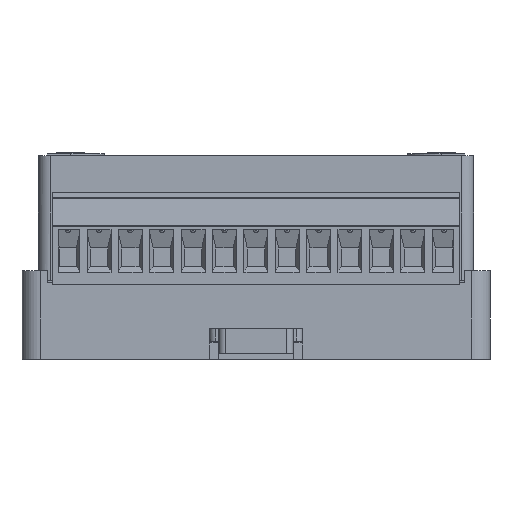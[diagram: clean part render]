
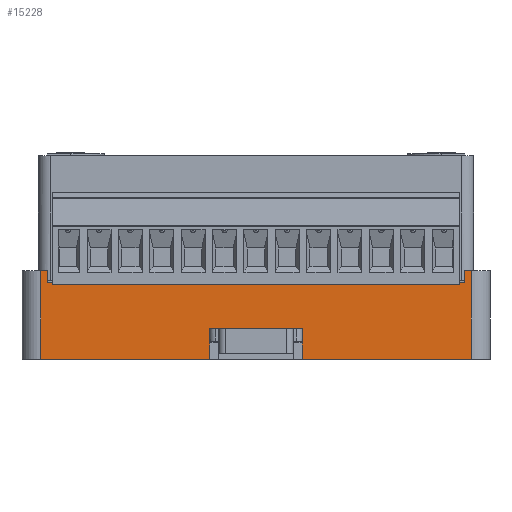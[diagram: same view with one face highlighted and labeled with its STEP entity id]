
A CAD part, front view. The second image highlights one B-rep face of the part: STEP entity #15228.
In plain terms, the highlighted planar face has unit normal (0, -1, 0).
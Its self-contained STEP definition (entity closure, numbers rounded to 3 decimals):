
#15228=ADVANCED_FACE('',(#60626),#60628,.F.);
#60626=FACE_BOUND('',#60627,.T.);
#60627=EDGE_LOOP('',(#93835,#93836,#93837,#93838,#93839,#93840,#93841,#93842,#93843,
#93844,#93845,#93846,#93847,#93848,#93849,#93850));
#60628=PLANE('',#60629);
#60629=AXIS2_PLACEMENT_3D('',#60630,#60631,#60632);
#60630=CARTESIAN_POINT('',(-37.9,-51.95,14.4));
#60631=DIRECTION('',(0.,1.,0.));
#60632=DIRECTION('',(0.,0.,1.));
#93835=ORIENTED_EDGE('',*,*,#125533,.F.);
#93836=ORIENTED_EDGE('',*,*,#125534,.F.);
#93837=ORIENTED_EDGE('',*,*,#125535,.T.);
#93838=ORIENTED_EDGE('',*,*,#125536,.T.);
#93839=ORIENTED_EDGE('',*,*,#125537,.T.);
#93840=ORIENTED_EDGE('',*,*,#125167,.F.);
#93841=ORIENTED_EDGE('',*,*,#125199,.T.);
#93842=ORIENTED_EDGE('',*,*,#125197,.F.);
#93843=ORIENTED_EDGE('',*,*,#125196,.T.);
#93844=ORIENTED_EDGE('',*,*,#125183,.F.);
#93845=ORIENTED_EDGE('',*,*,#125538,.T.);
#93846=ORIENTED_EDGE('',*,*,#125539,.T.);
#93847=ORIENTED_EDGE('',*,*,#125540,.F.);
#93848=ORIENTED_EDGE('',*,*,#125541,.F.);
#93849=ORIENTED_EDGE('',*,*,#125542,.F.);
#93850=ORIENTED_EDGE('',*,*,#125203,.F.);
#125167=EDGE_CURVE('',#142083,#142085,#142086,.T.);
#125183=EDGE_CURVE('',#142112,#142104,#142114,.T.);
#125196=EDGE_CURVE('',#142132,#142104,#142134,.T.);
#125197=EDGE_CURVE('',#142132,#142135,#142136,.T.);
#125199=EDGE_CURVE('',#142083,#142135,#142138,.T.);
#125203=EDGE_CURVE('',#142142,#142144,#142145,.T.);
#125533=EDGE_CURVE('',#142702,#142142,#142703,.T.);
#125534=EDGE_CURVE('',#142704,#142702,#142705,.T.);
#125535=EDGE_CURVE('',#142704,#142706,#142707,.T.);
#125536=EDGE_CURVE('',#142706,#142708,#142709,.T.);
#125537=EDGE_CURVE('',#142708,#142085,#142710,.T.);
#125538=EDGE_CURVE('',#142112,#142711,#142712,.T.);
#125539=EDGE_CURVE('',#142711,#142713,#142714,.T.);
#125540=EDGE_CURVE('',#142715,#142713,#142716,.T.);
#125541=EDGE_CURVE('',#142717,#142715,#142718,.T.);
#125542=EDGE_CURVE('',#142144,#142717,#142719,.T.);
#142083=VERTEX_POINT('',#187315);
#142085=VERTEX_POINT('',#187319);
#142086=LINE('',#187320,#187321);
#142104=VERTEX_POINT('',#187362);
#142112=VERTEX_POINT('',#187379);
#142114=LINE('',#187384,#187385);
#142132=VERTEX_POINT('',#187426);
#142134=LINE('',#187430,#187431);
#142135=VERTEX_POINT('',#187433);
#142136=LINE('',#187434,#187435);
#142138=LINE('',#187440,#187441);
#142142=VERTEX_POINT('',#187450);
#142144=VERTEX_POINT('',#187454);
#142145=LINE('',#187455,#187456);
#142702=VERTEX_POINT('',#189654);
#142703=LINE('',#189655,#189656);
#142704=VERTEX_POINT('',#189658);
#142705=LINE('',#189659,#189660);
#142706=VERTEX_POINT('',#189662);
#142707=LINE('',#189663,#189664);
#142708=VERTEX_POINT('',#189666);
#142709=LINE('',#189667,#189668);
#142710=LINE('',#189670,#189671);
#142711=VERTEX_POINT('',#189673);
#142712=LINE('',#189674,#189675);
#142713=VERTEX_POINT('',#189677);
#142714=LINE('',#189678,#189679);
#142715=VERTEX_POINT('',#189681);
#142716=LINE('',#189682,#189683);
#142717=VERTEX_POINT('',#189685);
#142718=LINE('',#189686,#189687);
#142719=LINE('',#189689,#189690);
#187315=CARTESIAN_POINT('',(33.85,-51.95,14.4));
#187319=CARTESIAN_POINT('',(34.9,-51.95,14.4));
#187320=CARTESIAN_POINT('',(33.85,-51.95,14.4));
#187321=VECTOR('',#187322,1.);
#187322=DIRECTION('',(1.,0.,0.));
#187362=CARTESIAN_POINT('',(-33.85,-51.95,14.4));
#187379=CARTESIAN_POINT('',(-34.9,-51.95,14.4));
#187384=CARTESIAN_POINT('',(-34.9,-51.95,14.4));
#187385=VECTOR('',#187386,1.);
#187386=DIRECTION('',(1.,0.,0.));
#187426=CARTESIAN_POINT('',(-33.85,-51.95,12.4));
#187430=CARTESIAN_POINT('',(-33.85,-51.95,12.4));
#187431=VECTOR('',#187432,1.);
#187432=DIRECTION('',(0.,0.,1.));
#187433=CARTESIAN_POINT('',(33.85,-51.95,12.4));
#187434=CARTESIAN_POINT('',(-33.85,-51.95,12.4));
#187435=VECTOR('',#187436,1.);
#187436=DIRECTION('',(1.,0.,0.));
#187440=CARTESIAN_POINT('',(33.85,-51.95,14.4));
#187441=VECTOR('',#187442,1.);
#187442=DIRECTION('',(0.,0.,-1.));
#187450=CARTESIAN_POINT('',(4.,-51.95,5.));
#187454=CARTESIAN_POINT('',(-4.,-51.95,5.));
#187455=CARTESIAN_POINT('',(4.,-51.95,5.));
#187456=VECTOR('',#187457,1.);
#187457=DIRECTION('',(-1.,0.,0.));
#189654=CARTESIAN_POINT('',(6.936,-51.95,5.));
#189655=CARTESIAN_POINT('',(6.936,-51.95,5.));
#189656=VECTOR('',#189657,1.);
#189657=DIRECTION('',(-1.,0.,0.));
#189658=CARTESIAN_POINT('',(7.5,-51.95,5.));
#189659=CARTESIAN_POINT('',(7.5,-51.95,5.));
#189660=VECTOR('',#189661,1.);
#189661=DIRECTION('',(-1.,0.,0.));
#189662=CARTESIAN_POINT('',(7.5,-51.95,0.));
#189663=CARTESIAN_POINT('',(7.5,-51.95,5.));
#189664=VECTOR('',#189665,1.);
#189665=DIRECTION('',(0.,0.,-1.));
#189666=CARTESIAN_POINT('',(34.9,-51.95,0.));
#189667=CARTESIAN_POINT('',(7.5,-51.95,0.));
#189668=VECTOR('',#189669,1.);
#189669=DIRECTION('',(1.,0.,0.));
#189670=CARTESIAN_POINT('',(34.9,-51.95,0.));
#189671=VECTOR('',#189672,1.);
#189672=DIRECTION('',(0.,0.,1.));
#189673=CARTESIAN_POINT('',(-34.9,-51.95,0.));
#189674=CARTESIAN_POINT('',(-34.9,-51.95,14.4));
#189675=VECTOR('',#189676,1.);
#189676=DIRECTION('',(0.,0.,-1.));
#189677=CARTESIAN_POINT('',(-7.5,-51.95,0.));
#189678=CARTESIAN_POINT('',(-34.9,-51.95,0.));
#189679=VECTOR('',#189680,1.);
#189680=DIRECTION('',(1.,0.,0.));
#189681=CARTESIAN_POINT('',(-7.5,-51.95,5.));
#189682=CARTESIAN_POINT('',(-7.5,-51.95,5.));
#189683=VECTOR('',#189684,1.);
#189684=DIRECTION('',(0.,0.,-1.));
#189685=CARTESIAN_POINT('',(-6.936,-51.95,5.));
#189686=CARTESIAN_POINT('',(-6.936,-51.95,5.));
#189687=VECTOR('',#189688,1.);
#189688=DIRECTION('',(-1.,0.,0.));
#189689=CARTESIAN_POINT('',(-4.,-51.95,5.));
#189690=VECTOR('',#189691,1.);
#189691=DIRECTION('',(-1.,0.,0.));
